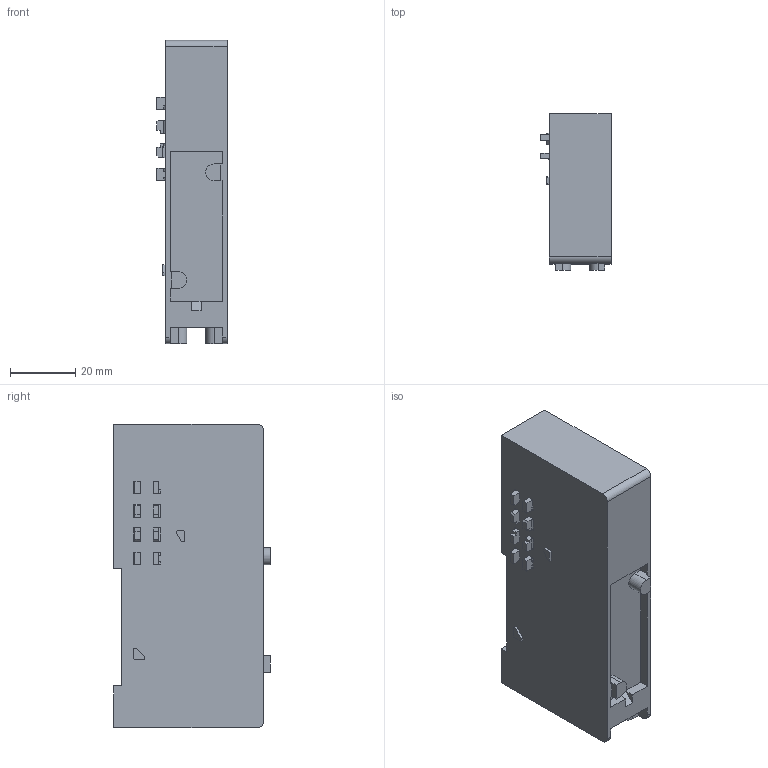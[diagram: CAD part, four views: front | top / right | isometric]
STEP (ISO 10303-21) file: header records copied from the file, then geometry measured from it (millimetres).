
FILE_DESCRIPTION( (''), '2;1');
FILE_NAME ('CVICAD02.18556.F10ZX-TK_7299.stp','2020-09-01T14:17:57',(''),(''),'spGate 12.6.6','','');
FILE_SCHEMA (('AUTOMOTIVE_DESIGN'));
Length unit declared in the file: millimetre
Bounding box: 21.6 x 48 x 93 mm (x, y, z)
Volume: 74055.6 mm3; surface area: 15180.8 mm2
Topology: 1 solids, 1 shells, 241 faces, 685 edges, 504 vertices
Faces by surface type: plane 214, cylinder 27
Entity records: 12991 total; most frequent: CARTESIAN_POINT 1574, ORIENTED_EDGE 1370, DIRECTION 1077, COLOUR_RGB 927, PRESENTATION_STYLE_ASSIGNMENT 927, STYLED_ITEM 927, EDGE_CURVE 685, DRAUGHTING_PRE_DEFINED_CURVE_FONT 685
